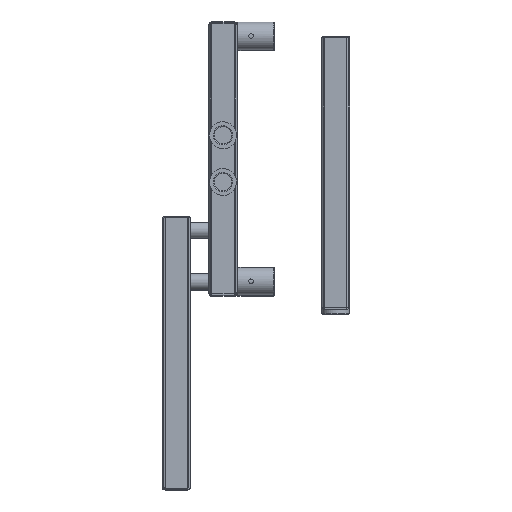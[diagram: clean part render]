
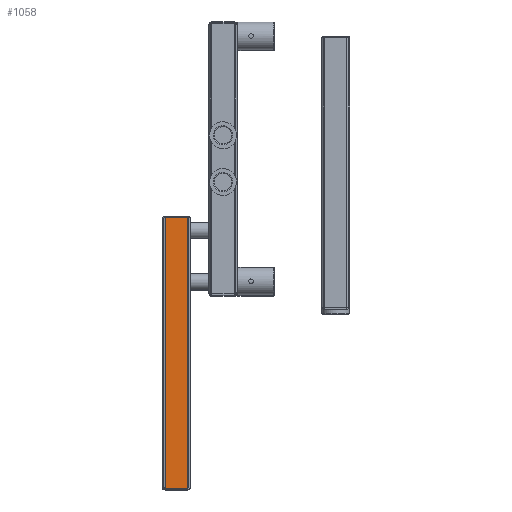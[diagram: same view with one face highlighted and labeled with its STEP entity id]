
A CAD part, top view. The second image highlights one B-rep face of the part: STEP entity #1058.
In plain terms, the highlighted planar face has unit normal (0, 0, 1) as drawn and (0, -1, 0) by its records, which use the part's own axes.
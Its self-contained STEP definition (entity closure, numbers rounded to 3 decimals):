
#1058 = ADVANCED_FACE( '', ( #2133 ), #2134, .T. );
#2133 = FACE_OUTER_BOUND( '', #3288, .T. );
#2134 = PLANE( '', #3289 );
#3288 = EDGE_LOOP( '', ( #5733, #5734, #5735, #5736 ) );
#3289 = AXIS2_PLACEMENT_3D( '', #5737, #5738, #5739 );
#5733 = ORIENTED_EDGE( '', *, *, #6166, .T. );
#5734 = ORIENTED_EDGE( '', *, *, #6708, .T. );
#5735 = ORIENTED_EDGE( '', *, *, #6243, .F. );
#5736 = ORIENTED_EDGE( '', *, *, #6865, .T. );
#5737 = CARTESIAN_POINT( '', ( 15., -15., 292.5 ) );
#5738 = DIRECTION( '', ( 0., -1., 0. ) );
#5739 = DIRECTION( '', ( 1., 0., 0. ) );
#6166 = EDGE_CURVE( '', #7183, #7196, #7198, .T. );
#6243 = EDGE_CURVE( '', #7334, #7335, #7336, .T. );
#6708 = EDGE_CURVE( '', #7196, #7335, #8090, .T. );
#6865 = EDGE_CURVE( '', #7334, #7183, #8307, .F. );
#7183 = VERTEX_POINT( '', #8684 );
#7196 = VERTEX_POINT( '', #8700 );
#7198 = LINE( '', #8702, #8703 );
#7334 = VERTEX_POINT( '', #8878 );
#7335 = VERTEX_POINT( '', #8879 );
#7336 = LINE( '', #8880, #8881 );
#8090 = LINE( '', #9900, #9901 );
#8307 = LINE( '', #10191, #10192 );
#8684 = CARTESIAN_POINT( '', ( 12., -15., 292.5 ) );
#8700 = CARTESIAN_POINT( '', ( -12., -15., 292.5 ) );
#8702 = CARTESIAN_POINT( '', ( 15., -15., 292.5 ) );
#8703 = VECTOR( '', #10757, 1000. );
#8878 = CARTESIAN_POINT( '', ( 12., -15., 0. ) );
#8879 = CARTESIAN_POINT( '', ( -12., -15., 0. ) );
#8880 = CARTESIAN_POINT( '', ( 15., -15., 0. ) );
#8881 = VECTOR( '', #10860, 1000. );
#9900 = CARTESIAN_POINT( '', ( -12., -15., 292.5 ) );
#9901 = VECTOR( '', #11516, 1000. );
#10191 = CARTESIAN_POINT( '', ( 12., -15., 292.5 ) );
#10192 = VECTOR( '', #11720, 1000. );
#10757 = DIRECTION( '', ( -1., 0., 0. ) );
#10860 = DIRECTION( '', ( -1., 0., 0. ) );
#11516 = DIRECTION( '', ( 0., 0., -1. ) );
#11720 = DIRECTION( '', ( 0., 0., -1. ) );
